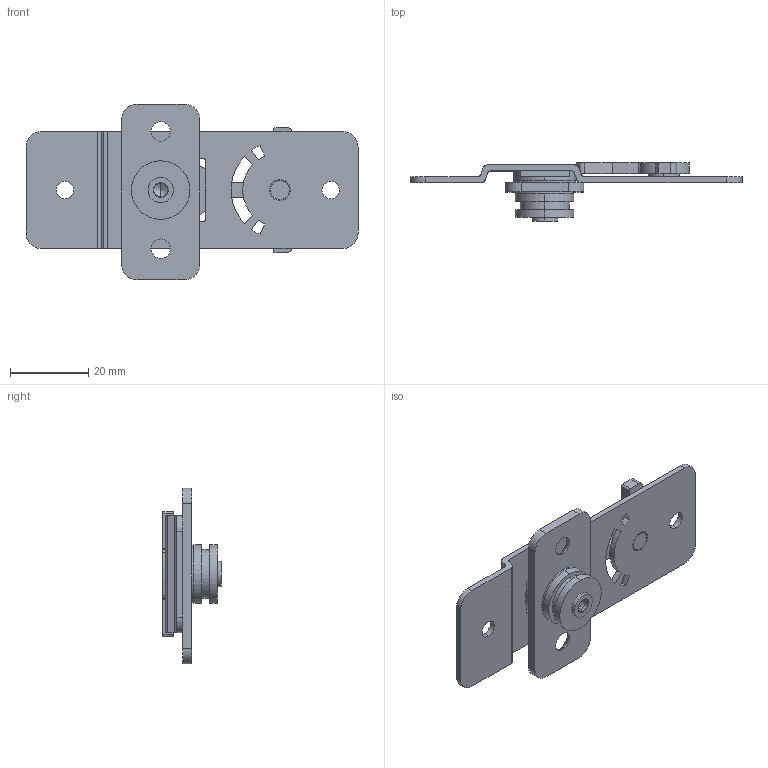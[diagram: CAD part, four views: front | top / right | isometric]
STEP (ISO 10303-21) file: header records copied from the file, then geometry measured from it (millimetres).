
FILE_DESCRIPTION (( 'STEP AP214' ), '1' );
FILE_NAME ('XG11-033.STEP', '2023-08-15T03:46:52', ( '' ), ( '' ), 'SwSTEP 2.0', 'SolidWorks 2019', '' );
FILE_SCHEMA (( 'AUTOMOTIVE_DESIGN' ));
Length unit declared in the file: millimetre
Products named in the file (4): 錨璃3; 錨璃1; XG11-033; 錨璃2
Assembly tree (3 placements, depth 2):
  XG11-033
    錨璃1
    錨璃2
    錨璃3
Bounding box: 85 x 14.98 x 45 mm (x, y, z)
Volume: 8104.3 mm3; surface area: 10949.7 mm2
Topology: 10 solids, 10 shells, 166 faces, 427 edges, 281 vertices
Faces by surface type: cylinder 84, plane 70, cone 10, torus 2
Entity records: 5835 total; most frequent: DIRECTION 957, CARTESIAN_POINT 878, ORIENTED_EDGE 850, EDGE_CURVE 425, AXIS2_PLACEMENT_3D 360, VERTEX_POINT 281, VECTOR 237, LINE 237
